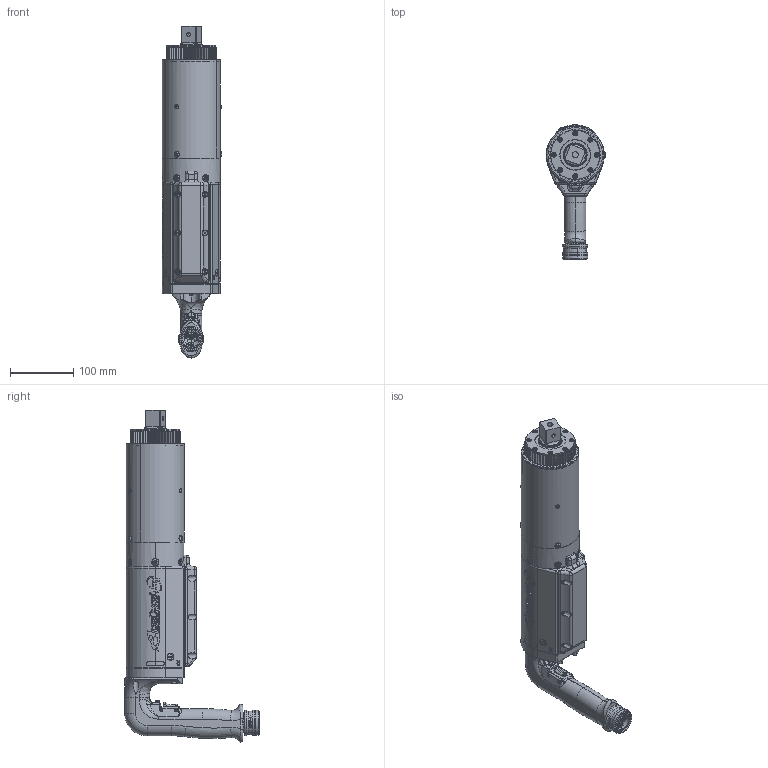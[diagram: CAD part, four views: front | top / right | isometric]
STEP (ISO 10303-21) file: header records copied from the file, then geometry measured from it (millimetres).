
FILE_DESCRIPTION (( 'STEP AP214' ), '1' );
FILE_NAME ('AED4B884200B1, AED4W884650B1, AED4B885000B1.STEP', '2016-04-04T22:24:18', ( 'AIMCO' ), ( '' ), 'SwSTEP 2.0', 'SolidWorks 2016', '' );
FILE_SCHEMA (( 'AUTOMOTIVE_DESIGN' ));
Length unit declared in the file: inch
Products named in the file (1): AED4B884200B1, AED4W884650B1, AED4B885000B1
Bounding box: 93.88 x 211.63 x 523.17 mm (x, y, z)
Surface area: 274691.9 mm2 (no closed solid volume)
Topology: 0 solids, 106 shells, 1409 faces, 5412 edges, 3976 vertices
Faces by surface type: cylinder 534, bspline 356, plane 280, torus 154, cone 67, sphere 18
Entity records: 92675 total; most frequent: CARTESIAN_POINT 34048, ORIENTED_EDGE 7998, DIRECTION 7273, EDGE_CURVE 5394, VERTEX_POINT 3974, AXIS2_PLACEMENT_3D 2723, LINE 1827, VECTOR 1827
